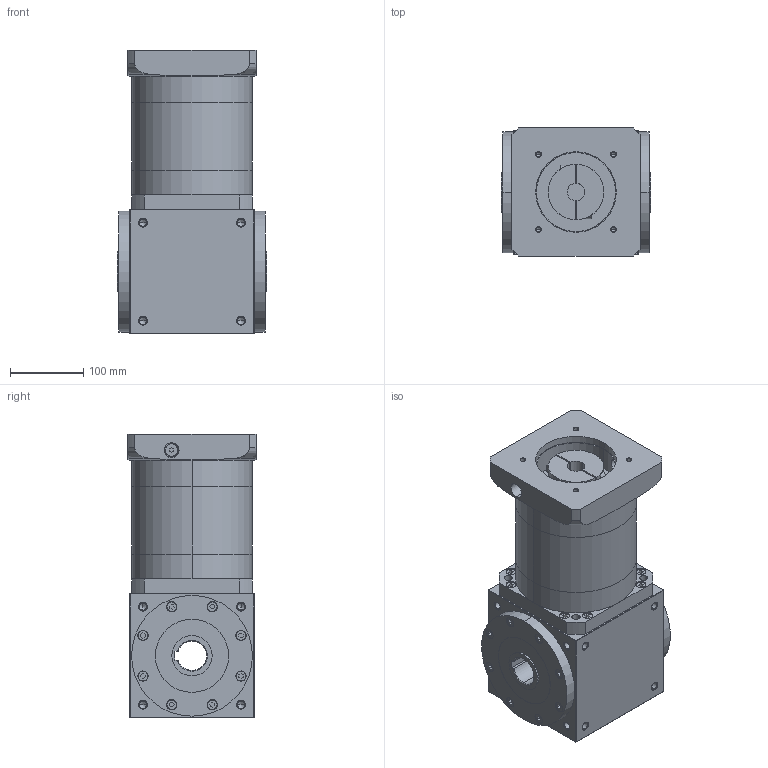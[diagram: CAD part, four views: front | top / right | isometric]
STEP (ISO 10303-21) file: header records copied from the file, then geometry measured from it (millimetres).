
FILE_DESCRIPTION (( 'STEP AP203' ), '1' );
FILE_NAME ('AT170-FH-L3-24-110-145M8.STEP', '2025-08-16T02:56:13', ( 'Windows User' ), ( 'P R C' ), 'SwSTEP 2.0', 'SolidWorks 2016', '' );
FILE_SCHEMA (( 'CONFIG_CONTROL_DESIGN' ));
Length unit declared in the file: millimetre
Products named in the file (5): AT170-内齿圈108-2; AT170-输入法兰-D-24-60-110-M8-145; AT170-FH-L3-24-110-145M8; AT170-蛌褒眊极-謂怀堤; AT170-蛌倰怀堤楊擘
Assembly tree (4 placements, depth 2):
  AT170-FH-L3-24-110-145M8
    AT170-蛌褒眊极-謂怀堤
    AT170-蛌倰怀堤楊擘
    AT170-内齿圈108-2
    AT170-输入法兰-D-24-60-110-M8-145
Bounding box: 204 x 175 x 388 mm (x, y, z)
Volume: 8214947.1 mm3; surface area: 707648.4 mm2
Topology: 4 solids, 20 shells, 1529 faces, 3879 edges, 2428 vertices
Faces by surface type: plane 803, cylinder 350, cone 256, bspline 120
Entity records: 53094 total; most frequent: CARTESIAN_POINT 17027, ORIENTED_EDGE 7518, DIRECTION 6927, EDGE_CURVE 3759, VECTOR 2523, LINE 2523, VERTEX_POINT 2428, AXIS2_PLACEMENT_3D 2202
